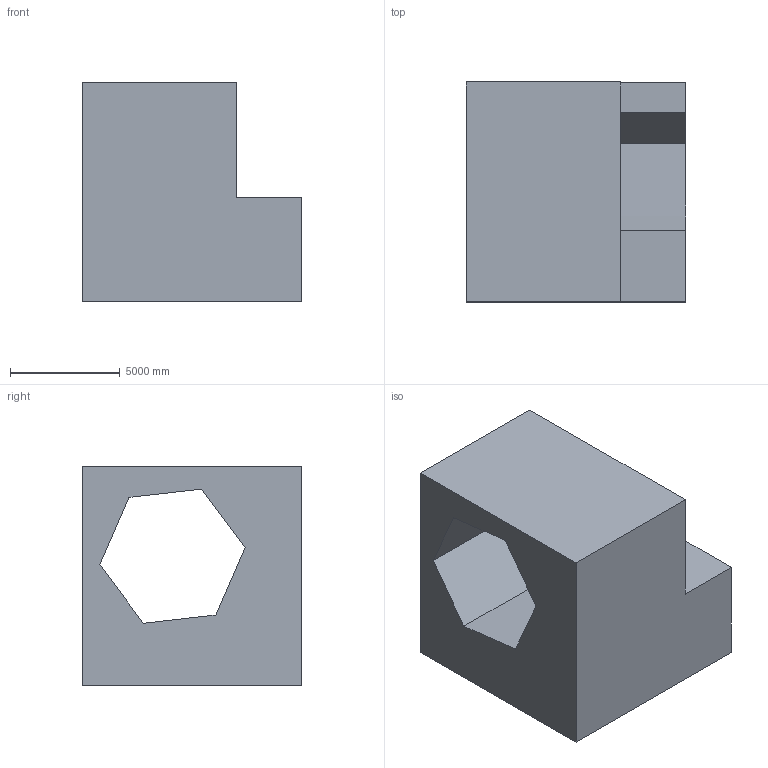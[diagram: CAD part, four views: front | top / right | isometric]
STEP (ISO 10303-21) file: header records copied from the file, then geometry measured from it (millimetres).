
FILE_DESCRIPTION (( 'STEP AP203' ), '1' );
FILE_NAME ('1048.STEP', '2022-08-18T12:33:29', ( 'user' ), ( '' ), 'SwSTEP 2.0', 'SolidWorks 2021', '' );
FILE_SCHEMA (( 'CONFIG_CONTROL_DESIGN' ));
Length unit declared in the file: centimetre
Products named in the file (1): 1048
Bounding box: 10000 x 10000 x 10000 mm (x, y, z)
Volume: 618850814908.3 mm3; surface area: 657328249.9 mm2
Topology: 1 solids, 1 shells, 15 faces, 42 edges, 28 vertices
Faces by surface type: plane 15
Entity records: 557 total; most frequent: CARTESIAN_POINT 86, ORIENTED_EDGE 84, DIRECTION 74, EDGE_CURVE 42, VECTOR 42, LINE 42, VERTEX_POINT 28, EDGE_LOOP 16
